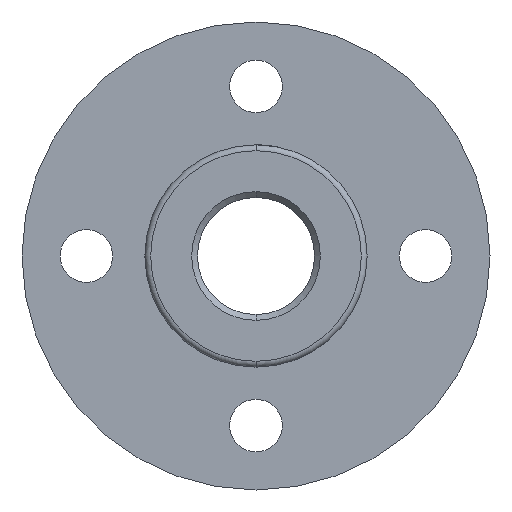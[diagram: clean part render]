
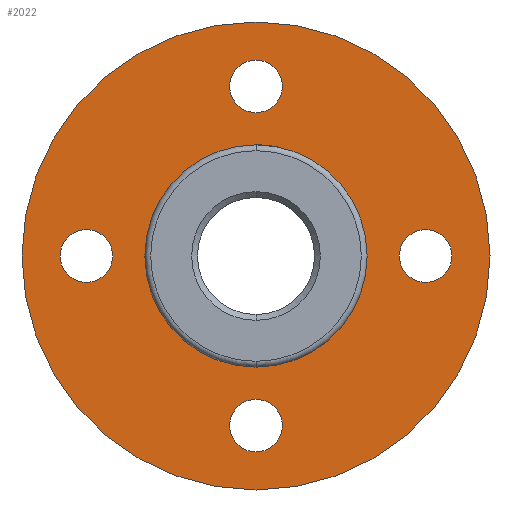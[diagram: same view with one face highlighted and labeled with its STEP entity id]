
A CAD part, front view. The second image highlights one B-rep face of the part: STEP entity #2022.
In plain terms, the highlighted planar face has unit normal (0, -1, 0).
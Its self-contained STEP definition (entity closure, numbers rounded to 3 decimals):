
#84 = CARTESIAN_POINT ( 'NONE',  ( 0., 0., -16.75 ) ) ;
#111 = CARTESIAN_POINT ( 'NONE',  ( -14.5, 0., 0. ) ) ;
#199 = CARTESIAN_POINT ( 'NONE',  ( 14.5, 0., -2.25 ) ) ;
#200 = AXIS2_PLACEMENT_3D ( 'NONE', #5042, #7283, #2837 ) ;
#220 = CIRCLE ( 'NONE', #4104, 2.25 ) ;
#311 = VERTEX_POINT ( 'NONE', #4399 ) ;
#446 = AXIS2_PLACEMENT_3D ( 'NONE', #6584, #973, #7163 ) ;
#518 = VERTEX_POINT ( 'NONE', #4041 ) ;
#526 = DIRECTION ( 'NONE',  ( 0., 1., 0. ) ) ;
#587 = PLANE ( 'NONE',  #2970 ) ;
#628 = EDGE_LOOP ( 'NONE', ( #1897, #6338 ) ) ;
#742 = FACE_BOUND ( 'NONE', #7143, .T. ) ;
#890 = CIRCLE ( 'NONE', #2281, 2.25 ) ;
#911 = DIRECTION ( 'NONE',  ( 0., 0., 1. ) ) ;
#947 = AXIS2_PLACEMENT_3D ( 'NONE', #1368, #2990, #2477 ) ;
#968 = CIRCLE ( 'NONE', #1422, 2.25 ) ;
#973 = DIRECTION ( 'NONE',  ( 0., 1., 0. ) ) ;
#992 = DIRECTION ( 'NONE',  ( 0., 0., 1. ) ) ;
#1043 = VERTEX_POINT ( 'NONE', #84 ) ;
#1159 = VERTEX_POINT ( 'NONE', #199 ) ;
#1223 = VERTEX_POINT ( 'NONE', #4641 ) ;
#1344 = VERTEX_POINT ( 'NONE', #4922 ) ;
#1368 = CARTESIAN_POINT ( 'NONE',  ( 0., 0., -14.5 ) ) ;
#1422 = AXIS2_PLACEMENT_3D ( 'NONE', #3207, #5993, #992 ) ;
#1626 = CARTESIAN_POINT ( 'NONE',  ( 0., 0., 12.25 ) ) ;
#1634 = EDGE_CURVE ( 'NONE', #4595, #311, #3124, .T. ) ;
#1700 = DIRECTION ( 'NONE',  ( 0., 1., 0. ) ) ;
#1706 = ORIENTED_EDGE ( 'NONE', *, *, #2173, .T. ) ;
#1757 = DIRECTION ( 'NONE',  ( 0., 0., 1. ) ) ;
#1774 = CIRCLE ( 'NONE', #6325, 2.25 ) ;
#1897 = ORIENTED_EDGE ( 'NONE', *, *, #7245, .T. ) ;
#1939 = VERTEX_POINT ( 'NONE', #4656 ) ;
#2022 = ADVANCED_FACE ( 'NONE', ( #4704, #742, #2253, #2597, #6297, #3213 ), #587, .F. ) ;
#2033 = VERTEX_POINT ( 'NONE', #1626 ) ;
#2039 = EDGE_CURVE ( 'NONE', #6311, #1223, #3312, .T. ) ;
#2127 = CIRCLE ( 'NONE', #6922, 9.5 ) ;
#2173 = EDGE_CURVE ( 'NONE', #2033, #7083, #220, .T. ) ;
#2235 = CARTESIAN_POINT ( 'NONE',  ( 0., 0., 0. ) ) ;
#2253 = FACE_BOUND ( 'NONE', #628, .T. ) ;
#2278 = DIRECTION ( 'NONE',  ( 0., 0., 1. ) ) ;
#2281 = AXIS2_PLACEMENT_3D ( 'NONE', #6648, #3284, #911 ) ;
#2331 = CARTESIAN_POINT ( 'NONE',  ( 0., 0., 14.5 ) ) ;
#2407 = DIRECTION ( 'NONE',  ( 0., 1., 0. ) ) ;
#2417 = CIRCLE ( 'NONE', #200, 9.5 ) ;
#2477 = DIRECTION ( 'NONE',  ( 0., 0., 1. ) ) ;
#2597 = FACE_BOUND ( 'NONE', #6752, .T. ) ;
#2837 = DIRECTION ( 'NONE',  ( 0., 0., 1. ) ) ;
#2887 = DIRECTION ( 'NONE',  ( 0., 1., 0. ) ) ;
#2921 = CIRCLE ( 'NONE', #5676, 2.25 ) ;
#2941 = CARTESIAN_POINT ( 'NONE',  ( 0., 0., 14.5 ) ) ;
#2970 = AXIS2_PLACEMENT_3D ( 'NONE', #2235, #1700, #3344 ) ;
#2990 = DIRECTION ( 'NONE',  ( 0., 1., 0. ) ) ;
#3124 = CIRCLE ( 'NONE', #5764, 20. ) ;
#3196 = EDGE_CURVE ( 'NONE', #1939, #518, #2417, .T. ) ;
#3207 = CARTESIAN_POINT ( 'NONE',  ( -14.5, 0., 0. ) ) ;
#3213 = FACE_OUTER_BOUND ( 'NONE', #6299, .T. ) ;
#3284 = DIRECTION ( 'NONE',  ( 0., 1., 0. ) ) ;
#3312 = CIRCLE ( 'NONE', #3627, 2.25 ) ;
#3344 = DIRECTION ( 'NONE',  ( 0., 0., 1. ) ) ;
#3402 = ORIENTED_EDGE ( 'NONE', *, *, #3790, .T. ) ;
#3411 = EDGE_CURVE ( 'NONE', #1043, #1344, #4612, .T. ) ;
#3609 = ORIENTED_EDGE ( 'NONE', *, *, #5949, .T. ) ;
#3618 = DIRECTION ( 'NONE',  ( 0., 0., 1. ) ) ;
#3627 = AXIS2_PLACEMENT_3D ( 'NONE', #111, #2887, #6260 ) ;
#3790 = EDGE_CURVE ( 'NONE', #1344, #1043, #5768, .T. ) ;
#4041 = CARTESIAN_POINT ( 'NONE',  ( 0., 0., -9.5 ) ) ;
#4104 = AXIS2_PLACEMENT_3D ( 'NONE', #2331, #5867, #3618 ) ;
#4121 = ORIENTED_EDGE ( 'NONE', *, *, #4400, .F. ) ;
#4186 = VERTEX_POINT ( 'NONE', #5112 ) ;
#4399 = CARTESIAN_POINT ( 'NONE',  ( 0., 0., -20. ) ) ;
#4400 = EDGE_CURVE ( 'NONE', #311, #4595, #6102, .T. ) ;
#4445 = DIRECTION ( 'NONE',  ( 0., 0., 1. ) ) ;
#4454 = ORIENTED_EDGE ( 'NONE', *, *, #1634, .F. ) ;
#4535 = CARTESIAN_POINT ( 'NONE',  ( 0., 0., 0. ) ) ;
#4579 = CARTESIAN_POINT ( 'NONE',  ( 0., 0., -14.5 ) ) ;
#4595 = VERTEX_POINT ( 'NONE', #5573 ) ;
#4612 = CIRCLE ( 'NONE', #947, 2.25 ) ;
#4631 = EDGE_CURVE ( 'NONE', #1159, #4186, #1774, .T. ) ;
#4641 = CARTESIAN_POINT ( 'NONE',  ( -14.5, 0., 2.25 ) ) ;
#4656 = CARTESIAN_POINT ( 'NONE',  ( 0., 0., 9.5 ) ) ;
#4704 = FACE_BOUND ( 'NONE', #5865, .T. ) ;
#4747 = ORIENTED_EDGE ( 'NONE', *, *, #3411, .T. ) ;
#4781 = CARTESIAN_POINT ( 'NONE',  ( 0., 0., 16.75 ) ) ;
#4818 = AXIS2_PLACEMENT_3D ( 'NONE', #4579, #6105, #1757 ) ;
#4849 = DIRECTION ( 'NONE',  ( 0., 1., 0. ) ) ;
#4922 = CARTESIAN_POINT ( 'NONE',  ( 0., 0., -12.25 ) ) ;
#5006 = CARTESIAN_POINT ( 'NONE',  ( -14.5, 0., -2.25 ) ) ;
#5042 = CARTESIAN_POINT ( 'NONE',  ( 0., 0., 0. ) ) ;
#5112 = CARTESIAN_POINT ( 'NONE',  ( 14.5, 0., 2.25 ) ) ;
#5185 = DIRECTION ( 'NONE',  ( 0., 1., 0. ) ) ;
#5192 = ORIENTED_EDGE ( 'NONE', *, *, #5718, .T. ) ;
#5426 = DIRECTION ( 'NONE',  ( 0., 0., 1. ) ) ;
#5573 = CARTESIAN_POINT ( 'NONE',  ( 0., 0., 20. ) ) ;
#5676 = AXIS2_PLACEMENT_3D ( 'NONE', #2941, #2407, #6826 ) ;
#5718 = EDGE_CURVE ( 'NONE', #1223, #6311, #968, .T. ) ;
#5750 = EDGE_LOOP ( 'NONE', ( #5192, #6364 ) ) ;
#5764 = AXIS2_PLACEMENT_3D ( 'NONE', #4535, #5185, #2278 ) ;
#5768 = CIRCLE ( 'NONE', #4818, 2.25 ) ;
#5859 = EDGE_CURVE ( 'NONE', #518, #1939, #2127, .T. ) ;
#5865 = EDGE_LOOP ( 'NONE', ( #6786, #6658 ) ) ;
#5867 = DIRECTION ( 'NONE',  ( 0., 1., 0. ) ) ;
#5949 = EDGE_CURVE ( 'NONE', #7083, #2033, #2921, .T. ) ;
#5960 = CARTESIAN_POINT ( 'NONE',  ( 0., 0., 0. ) ) ;
#5993 = DIRECTION ( 'NONE',  ( 0., 1., 0. ) ) ;
#6102 = CIRCLE ( 'NONE', #446, 20. ) ;
#6105 = DIRECTION ( 'NONE',  ( 0., 1., 0. ) ) ;
#6260 = DIRECTION ( 'NONE',  ( 0., 0., 1. ) ) ;
#6297 = FACE_BOUND ( 'NONE', #5750, .T. ) ;
#6299 = EDGE_LOOP ( 'NONE', ( #4121, #4454 ) ) ;
#6311 = VERTEX_POINT ( 'NONE', #5006 ) ;
#6325 = AXIS2_PLACEMENT_3D ( 'NONE', #7247, #526, #4445 ) ;
#6338 = ORIENTED_EDGE ( 'NONE', *, *, #4631, .T. ) ;
#6364 = ORIENTED_EDGE ( 'NONE', *, *, #2039, .T. ) ;
#6584 = CARTESIAN_POINT ( 'NONE',  ( 0., 0., 0. ) ) ;
#6648 = CARTESIAN_POINT ( 'NONE',  ( 14.5, 0., 0. ) ) ;
#6658 = ORIENTED_EDGE ( 'NONE', *, *, #5859, .T. ) ;
#6752 = EDGE_LOOP ( 'NONE', ( #3609, #1706 ) ) ;
#6786 = ORIENTED_EDGE ( 'NONE', *, *, #3196, .T. ) ;
#6826 = DIRECTION ( 'NONE',  ( 0., 0., 1. ) ) ;
#6922 = AXIS2_PLACEMENT_3D ( 'NONE', #5960, #4849, #5426 ) ;
#7083 = VERTEX_POINT ( 'NONE', #4781 ) ;
#7143 = EDGE_LOOP ( 'NONE', ( #3402, #4747 ) ) ;
#7163 = DIRECTION ( 'NONE',  ( 0., 0., 1. ) ) ;
#7245 = EDGE_CURVE ( 'NONE', #4186, #1159, #890, .T. ) ;
#7247 = CARTESIAN_POINT ( 'NONE',  ( 14.5, 0., 0. ) ) ;
#7283 = DIRECTION ( 'NONE',  ( 0., 1., 0. ) ) ;
